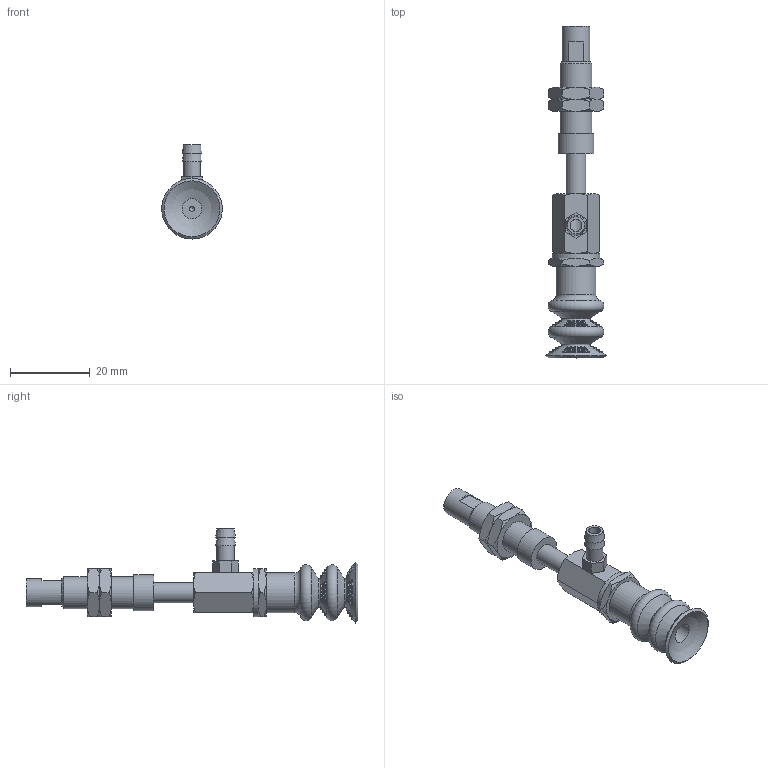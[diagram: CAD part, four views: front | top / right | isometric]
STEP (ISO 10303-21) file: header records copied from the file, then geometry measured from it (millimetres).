
FILE_DESCRIPTION(('STEP AP203'),'1');
FILE_NAME('-T.stp','2025-04-03T06:56:06',(' '),(' '),'Spatial InterOp 3D',' ',' ');
FILE_SCHEMA(('CONFIG_CONTROL_DESIGN'));
Length unit declared in the file: millimetre
Products named in the file (8): BNABPCYS-15-10-※-T; Adapter_napc-15-T; Connector_s-15-10; Nut napc_s-15-10; NAPCTS-15-10-FBODY; NAPCTS-15-10-MBODY; BPCG-15-※; T
Assembly tree (8 placements, depth 2):
  BNABPCYS-15-10-※-T
    Adapter_napc-15-T
    Connector_s-15-10
    Nut napc_s-15-10  x2
    NAPCTS-15-10-FBODY
    NAPCTS-15-10-MBODY
    BPCG-15-※
    T
Bounding box: 15.2 x 83.2 x 23.6 mm (x, y, z)
Volume: 5776.3 mm3; surface area: 6142.6 mm2
Topology: 8 solids, 8 shells, 255 faces, 734 edges, 472 vertices
Faces by surface type: cone 71, plane 70, sphere 58, torus 34, cylinder 22
Full cylindrical faces by diameter (mm): 1.25 x1, 3 x1, 4.134 x3, 4.3 x1, 5 x9, 7 x1, 7.188 x2, 8 x1, 9 x1, 10 x1, 12 x1
Entity records: 7245 total; most frequent: CARTESIAN_POINT 2001, DIRECTION 1058, ORIENTED_EDGE 888, AXIS2_PLACEMENT_3D 497, EDGE_CURVE 444, EDGE_LOOP 332, VERTEX_POINT 315, FACE_OUTER_BOUND 261
